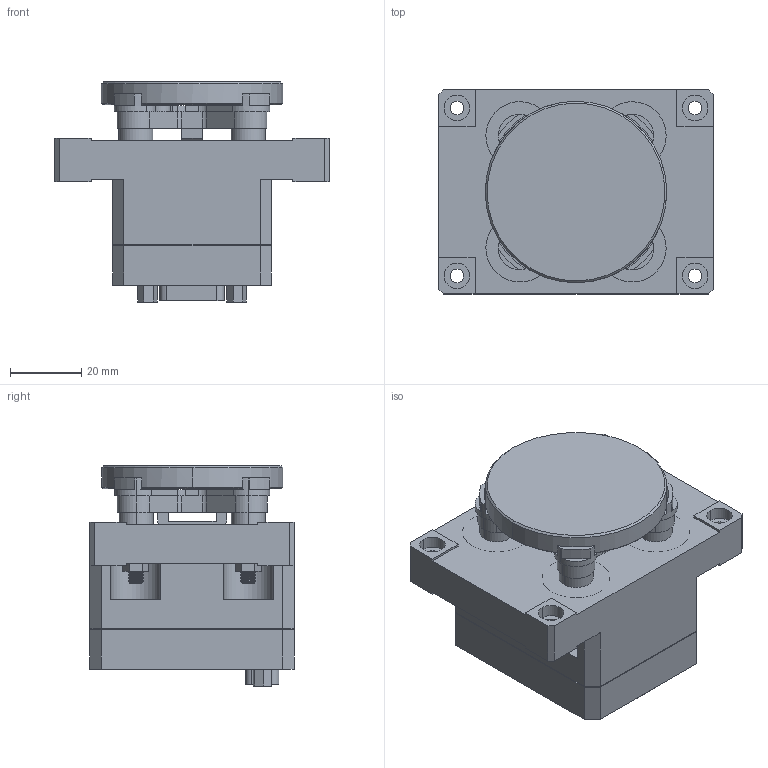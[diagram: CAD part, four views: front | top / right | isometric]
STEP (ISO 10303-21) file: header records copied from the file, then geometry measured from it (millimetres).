
FILE_DESCRIPTION (( 'STEP AP203' ), '1' );
FILE_NAME ('OIM202 Simplified Model No Foot.STEP', '2016-08-29T22:34:33', ( '' ), ( '' ), 'SwSTEP 2.0', 'SolidWorks 2016', '' );
FILE_SCHEMA (( 'CONFIG_CONTROL_DESIGN' ));
Length unit declared in the file: inch
Products named in the file (1): OIM202 Simplified Model No Foot
Bounding box: 76.84 x 57.15 x 61.63 mm (x, y, z)
Volume: 127915.7 mm3; surface area: 42486.8 mm2
Topology: 6 solids, 6 shells, 725 faces, 1873 edges, 1194 vertices
Faces by surface type: plane 295, cylinder 292, cone 108, torus 30
Entity records: 23891 total; most frequent: CARTESIAN_POINT 5993, DIRECTION 3760, ORIENTED_EDGE 3730, EDGE_CURVE 1865, AXIS2_PLACEMENT_3D 1361, VERTEX_POINT 1194, VECTOR 1038, LINE 1038
